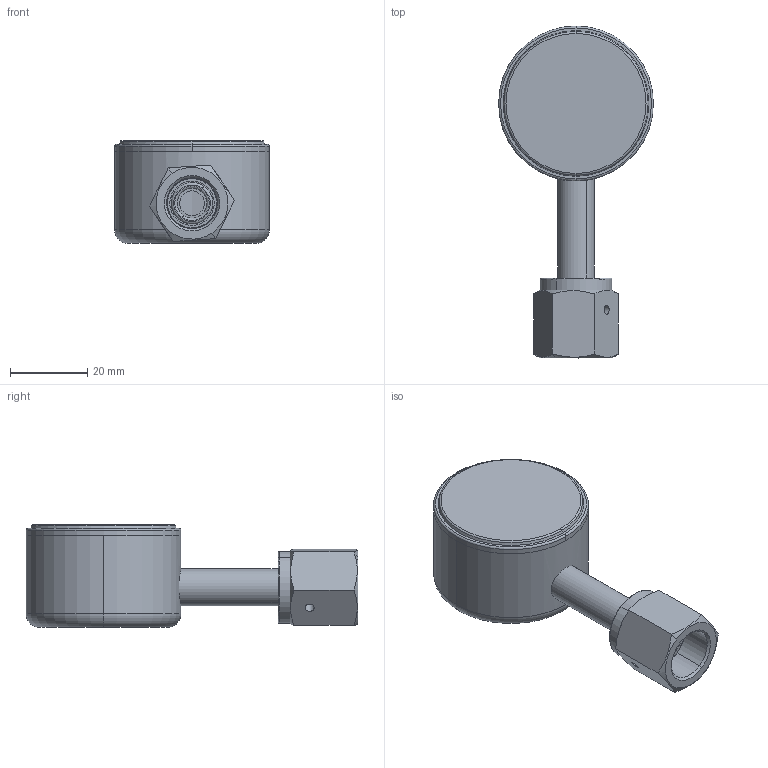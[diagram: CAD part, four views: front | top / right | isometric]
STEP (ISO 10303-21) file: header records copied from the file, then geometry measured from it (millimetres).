
FILE_DESCRIPTION (( 'STEP AP203' ), '1' );
FILE_NAME ('S15-SF.STEP', '2025-03-04T19:39:22', ( '' ), ( '' ), 'SwSTEP 2.0', 'SolidWorks 2023', '' );
FILE_SCHEMA (( 'CONFIG_CONTROL_DESIGN' ));
Length unit declared in the file: millimetre
Products named in the file (1): S15-SF
Bounding box: 40 x 85.7 x 26.6 mm (x, y, z)
Volume: 11840.2 mm3; surface area: 15827.4 mm2
Topology: 4 solids, 4 shells, 84 faces, 180 edges, 112 vertices
Faces by surface type: cylinder 34, plane 22, torus 16, cone 10, bspline 2
Entity records: 2617 total; most frequent: CARTESIAN_POINT 675, DIRECTION 428, ORIENTED_EDGE 360, AXIS2_PLACEMENT_3D 189, EDGE_CURVE 180, VERTEX_POINT 112, CIRCLE 106, EDGE_LOOP 102
